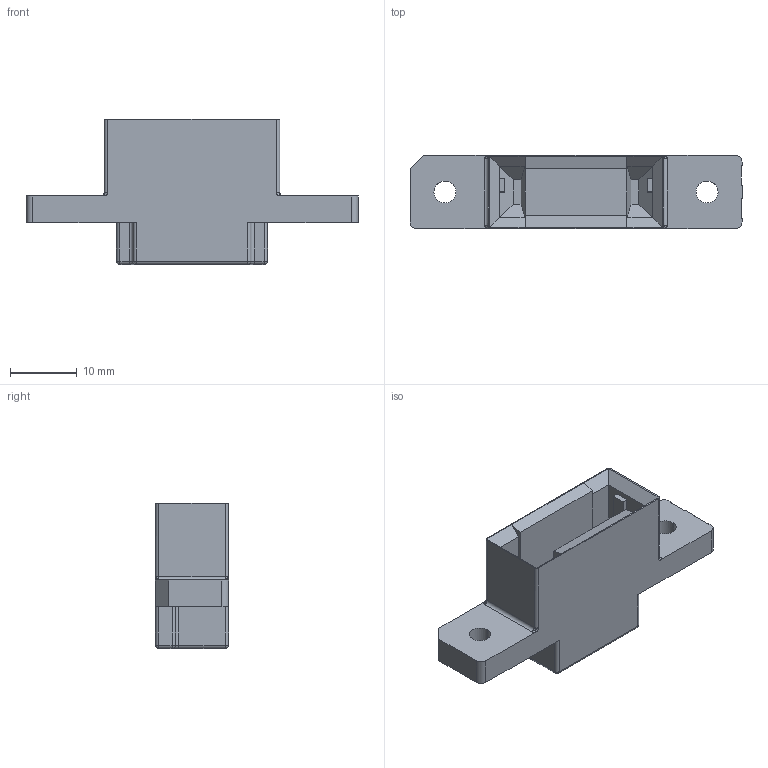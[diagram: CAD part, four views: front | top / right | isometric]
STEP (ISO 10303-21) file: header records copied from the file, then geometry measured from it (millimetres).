
FILE_DESCRIPTION(('CoCreate Modeling STEP Export'),'2;1');
FILE_NAME('P3C985_FAS12-020.stp','2017-07-28T16:21:58',(''),(''),'CoCreate Modeling STEP processor for AP214 (Solid Model)','CoCreate Modeling 17.0B 09-Oct-2010 (C) Parametric Technology GmbH','');
FILE_SCHEMA(('AUTOMOTIVE_DESIGN { 1 0 10303 214 1 1 1 1 }'));
Length unit declared in the file: millimetre
Products named in the file (2): FAS12-020
Assembly tree (1 placements, depth 2):
  FAS12-020
    FAS12-020
Bounding box: 49.9 x 11 x 21.8 mm (x, y, z)
Volume: 4735 mm3; surface area: 3681.8 mm2
Topology: 1 solids, 1 shells, 415 faces, 1134 edges, 736 vertices
Faces by surface type: plane 366, cylinder 29, bspline 12, sphere 6, torus 2
Entity records: 13316 total; most frequent: CARTESIAN_POINT 2990, ORIENTED_EDGE 2256, DIRECTION 1900, EDGE_CURVE 1128, VECTOR 1032, LINE 1032, VERTEX_POINT 736, EDGE_LOOP 440
